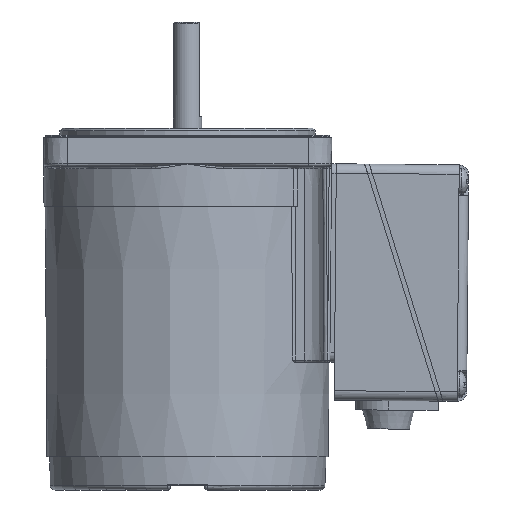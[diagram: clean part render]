
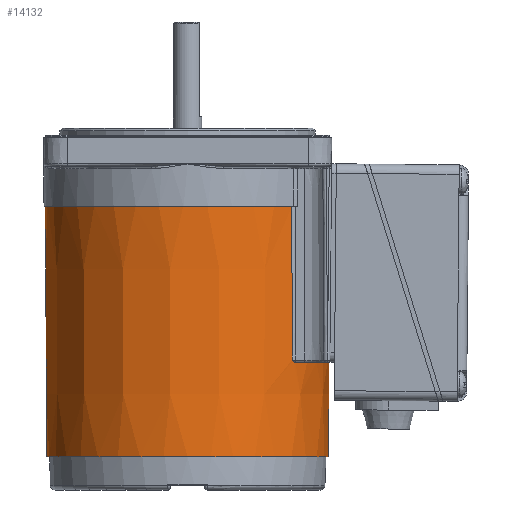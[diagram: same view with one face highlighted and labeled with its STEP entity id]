
A CAD part, left-side view. The second image highlights one B-rep face of the part: STEP entity #14132.
In plain terms, the highlighted conical face has half-angle 0.318 degrees and reference radius 30.123 mm.
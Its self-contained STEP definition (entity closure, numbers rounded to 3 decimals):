
#26 = CARTESIAN_POINT ( 'NONE',  ( 3.81, -29.707, -47.5 ) ) ;
#276 = CARTESIAN_POINT ( 'NONE',  ( 0., 0., -14.5 ) ) ;
#316 = AXIS2_PLACEMENT_3D ( 'NONE', #276, #6892, #12479 ) ;
#362 = VERTEX_POINT ( 'NONE', #2003 ) ;
#465 = B_SPLINE_CURVE_WITH_KNOTS ( 'NONE', 3,
 ( #5491, #26, #964, #12960, #14102, #4279, #6500, #9795, #7646, #7577 ),
 .UNSPECIFIED., .F., .F.,
 ( 4, 2, 2, 2, 4 ),
 ( 0., 0.002, 0.005, 0.007, 0.009 ),
 .UNSPECIFIED. ) ;
#853 = B_SPLINE_CURVE_WITH_KNOTS ( 'NONE', 3,
 ( #5702, #8996, #11278, #5771, #4757, #6986, #14056, #13843, #9754, #5076 ),
 .UNSPECIFIED., .F., .F.,
 ( 4, 3, 3, 4 ),
 ( 0., 0.002, 0.01, 0.033 ),
 .UNSPECIFIED. ) ;
#964 = CARTESIAN_POINT ( 'NONE',  ( 3.05, -29.794, -47.461 ) ) ;
#1103 = CARTESIAN_POINT ( 'NONE',  ( 20.494, -22.077, -14.5 ) ) ;
#1349 = ORIENTED_EDGE ( 'NONE', *, *, #7002, .T. ) ;
#1555 = EDGE_LOOP ( 'NONE', ( #12562, #14049, #2099, #1349, #11857, #12964, #4025, #3555 ) ) ;
#2003 = CARTESIAN_POINT ( 'NONE',  ( 4.567, -29.59, -47.5 ) ) ;
#2099 = ORIENTED_EDGE ( 'NONE', *, *, #5420, .T. ) ;
#2292 = CARTESIAN_POINT ( 'NONE',  ( -20.494, -22.077, -14.5 ) ) ;
#2420 = CARTESIAN_POINT ( 'NONE',  ( -19.391, -22.812, -47.5 ) ) ;
#2437 = CARTESIAN_POINT ( 'NONE',  ( 0., 0., -14.5 ) ) ;
#2569 = CARTESIAN_POINT ( 'NONE',  ( -20.224, -22.088, -46.001 ) ) ;
#3286 = FACE_BOUND ( 'NONE', #5263, .T. ) ;
#3304 = ORIENTED_EDGE ( 'NONE', *, *, #4034, .F. ) ;
#3313 = B_SPLINE_CURVE_WITH_KNOTS ( 'NONE', 3,
 ( #7806, #11896, #14116, #8815, #4293, #12973 ),
 .UNSPECIFIED., .F., .F.,
 ( 4, 2, 4 ),
 ( 0., 0.001, 0.001 ),
 .UNSPECIFIED. ) ;
#3369 = CARTESIAN_POINT ( 'NONE',  ( -20.229, -22.088, -45.5 ) ) ;
#3404 = VERTEX_POINT ( 'NONE', #4650 ) ;
#3555 = ORIENTED_EDGE ( 'NONE', *, *, #12802, .T. ) ;
#3920 = CARTESIAN_POINT ( 'NONE',  ( 20.093, -22.2, -47.122 ) ) ;
#3935 = CARTESIAN_POINT ( 'NONE',  ( 0., 0., -67.5 ) ) ;
#4025 = ORIENTED_EDGE ( 'NONE', *, *, #10476, .T. ) ;
#4034 = EDGE_CURVE ( 'NONE', #10006, #10006, #12085, .T. ) ;
#4114 = DIRECTION ( 'NONE',  ( 0., 0., -1. ) ) ;
#4279 = CARTESIAN_POINT ( 'NONE',  ( -0.764, -29.941, -47.356 ) ) ;
#4293 = CARTESIAN_POINT ( 'NONE',  ( -20.093, -22.2, -47.122 ) ) ;
#4442 = CARTESIAN_POINT ( 'NONE',  ( -20.216, -22.088, -47.003 ) ) ;
#4525 = VERTEX_POINT ( 'NONE', #2420 ) ;
#4650 = CARTESIAN_POINT ( 'NONE',  ( -20.494, -22.077, -14.5 ) ) ;
#4757 = CARTESIAN_POINT ( 'NONE',  ( 20.454, -22.079, -19.166 ) ) ;
#4934 = DIRECTION ( 'NONE',  ( 0., 0., -1. ) ) ;
#5076 = CARTESIAN_POINT ( 'NONE',  ( 20.216, -22.088, -47.003 ) ) ;
#5149 = CARTESIAN_POINT ( 'NONE',  ( 19.699, -22.548, -47.429 ) ) ;
#5238 = DIRECTION ( 'NONE',  ( 0., 0., -1. ) ) ;
#5263 = EDGE_LOOP ( 'NONE', ( #3304 ) ) ;
#5372 = EDGE_CURVE ( 'NONE', #7565, #8091, #6228, .T. ) ;
#5420 = EDGE_CURVE ( 'NONE', #8091, #362, #6949, .T. ) ;
#5491 = CARTESIAN_POINT ( 'NONE',  ( 4.567, -29.59, -47.5 ) ) ;
#5702 = CARTESIAN_POINT ( 'NONE',  ( 20.494, -22.077, -14.5 ) ) ;
#5771 = CARTESIAN_POINT ( 'NONE',  ( 20.477, -22.078, -16.5 ) ) ;
#5912 = AXIS2_PLACEMENT_3D ( 'NONE', #3935, #5238, #13847 ) ;
#6014 = CARTESIAN_POINT ( 'NONE',  ( 19.549, -22.678, -47.5 ) ) ;
#6228 = B_SPLINE_CURVE_WITH_KNOTS ( 'NONE', 3,
 ( #13688, #3920, #7236, #5149, #6014, #11669 ),
 .UNSPECIFIED., .F., .F.,
 ( 4, 2, 4 ),
 ( 0., 0.001, 0.001 ),
 .UNSPECIFIED. ) ;
#6416 = CARTESIAN_POINT ( 'NONE',  ( 0., 0., -47.5 ) ) ;
#6500 = CARTESIAN_POINT ( 'NONE',  ( -1.529, -29.911, -47.389 ) ) ;
#6504 = VERTEX_POINT ( 'NONE', #6973 ) ;
#6600 = EDGE_CURVE ( 'NONE', #4525, #6504, #3313, .T. ) ;
#6678 = AXIS2_PLACEMENT_3D ( 'NONE', #2437, #6815, #7678 ) ;
#6790 = B_SPLINE_CURVE_WITH_KNOTS ( 'NONE', 3,
 ( #4442, #8903, #2569, #3369, #6819, #12116, #13266, #11181, #6885, #2292 ),
 .UNSPECIFIED., .F., .F.,
 ( 4, 3, 3, 4 ),
 ( 0., 0.002, 0.01, 0.033 ),
 .UNSPECIFIED. ) ;
#6815 = DIRECTION ( 'NONE',  ( 0., 0., 1. ) ) ;
#6819 = CARTESIAN_POINT ( 'NONE',  ( -20.251, -22.087, -42.834 ) ) ;
#6885 = CARTESIAN_POINT ( 'NONE',  ( -20.429, -22.08, -22.167 ) ) ;
#6892 = DIRECTION ( 'NONE',  ( 0., 0., -1. ) ) ;
#6907 = CONICAL_SURFACE ( 'NONE', #6678, 30.123, 0.006 ) ;
#6949 = CIRCLE ( 'NONE', #12440, 29.94 ) ;
#6973 = CARTESIAN_POINT ( 'NONE',  ( -20.216, -22.088, -47.003 ) ) ;
#6986 = CARTESIAN_POINT ( 'NONE',  ( 20.431, -22.08, -21.833 ) ) ;
#7002 = EDGE_CURVE ( 'NONE', #362, #8268, #465, .T. ) ;
#7230 = CARTESIAN_POINT ( 'NONE',  ( -4.567, -29.59, -47.5 ) ) ;
#7236 = CARTESIAN_POINT ( 'NONE',  ( 19.969, -22.311, -47.241 ) ) ;
#7565 = VERTEX_POINT ( 'NONE', #10690 ) ;
#7577 = CARTESIAN_POINT ( 'NONE',  ( -4.567, -29.59, -47.5 ) ) ;
#7646 = CARTESIAN_POINT ( 'NONE',  ( -3.809, -29.707, -47.5 ) ) ;
#7676 = CARTESIAN_POINT ( 'NONE',  ( 19.391, -22.812, -47.5 ) ) ;
#7678 = DIRECTION ( 'NONE',  ( 1., 0., 0. ) ) ;
#7806 = CARTESIAN_POINT ( 'NONE',  ( -19.391, -22.812, -47.5 ) ) ;
#8091 = VERTEX_POINT ( 'NONE', #7676 ) ;
#8268 = VERTEX_POINT ( 'NONE', #7230 ) ;
#8428 = DIRECTION ( 'NONE',  ( -1., 0., 0. ) ) ;
#8815 = CARTESIAN_POINT ( 'NONE',  ( -19.969, -22.311, -47.241 ) ) ;
#8903 = CARTESIAN_POINT ( 'NONE',  ( -20.22, -22.088, -46.502 ) ) ;
#8996 = CARTESIAN_POINT ( 'NONE',  ( 20.489, -22.078, -15.167 ) ) ;
#9754 = CARTESIAN_POINT ( 'NONE',  ( 20.28, -22.086, -39.502 ) ) ;
#9779 = VERTEX_POINT ( 'NONE', #1103 ) ;
#9795 = CARTESIAN_POINT ( 'NONE',  ( -3.051, -29.794, -47.461 ) ) ;
#9882 = FACE_OUTER_BOUND ( 'NONE', #1555, .T. ) ;
#10006 = VERTEX_POINT ( 'NONE', #13234 ) ;
#10376 = CARTESIAN_POINT ( 'NONE',  ( 0., 0., -47.5 ) ) ;
#10476 = EDGE_CURVE ( 'NONE', #6504, #3404, #6790, .T. ) ;
#10690 = CARTESIAN_POINT ( 'NONE',  ( 20.216, -22.088, -47.003 ) ) ;
#10939 = EDGE_CURVE ( 'NONE', #8268, #4525, #13503, .T. ) ;
#11181 = CARTESIAN_POINT ( 'NONE',  ( -20.363, -22.083, -29.834 ) ) ;
#11278 = CARTESIAN_POINT ( 'NONE',  ( 20.483, -22.078, -15.833 ) ) ;
#11459 = DIRECTION ( 'NONE',  ( -1., 0., 0. ) ) ;
#11661 = AXIS2_PLACEMENT_3D ( 'NONE', #6416, #4114, #8428 ) ;
#11669 = CARTESIAN_POINT ( 'NONE',  ( 19.391, -22.812, -47.5 ) ) ;
#11857 = ORIENTED_EDGE ( 'NONE', *, *, #10939, .T. ) ;
#11896 = CARTESIAN_POINT ( 'NONE',  ( -19.549, -22.678, -47.5 ) ) ;
#12085 = CIRCLE ( 'NONE', #5912, 29.829 ) ;
#12116 = CARTESIAN_POINT ( 'NONE',  ( -20.274, -22.086, -40.167 ) ) ;
#12440 = AXIS2_PLACEMENT_3D ( 'NONE', #10376, #4934, #11459 ) ;
#12479 = DIRECTION ( 'NONE',  ( -1., 0., 0. ) ) ;
#12562 = ORIENTED_EDGE ( 'NONE', *, *, #13928, .T. ) ;
#12802 = EDGE_CURVE ( 'NONE', #3404, #9779, #14082, .T. ) ;
#12960 = CARTESIAN_POINT ( 'NONE',  ( 1.529, -29.911, -47.389 ) ) ;
#12964 = ORIENTED_EDGE ( 'NONE', *, *, #6600, .T. ) ;
#12973 = CARTESIAN_POINT ( 'NONE',  ( -20.216, -22.088, -47.003 ) ) ;
#13234 = CARTESIAN_POINT ( 'NONE',  ( -29.829, 0., -67.5 ) ) ;
#13266 = CARTESIAN_POINT ( 'NONE',  ( -20.297, -22.085, -37.5 ) ) ;
#13503 = CIRCLE ( 'NONE', #11661, 29.94 ) ;
#13688 = CARTESIAN_POINT ( 'NONE',  ( 20.216, -22.088, -47.003 ) ) ;
#13843 = CARTESIAN_POINT ( 'NONE',  ( 20.344, -22.084, -32.001 ) ) ;
#13847 = DIRECTION ( 'NONE',  ( -1., 0., 0. ) ) ;
#13928 = EDGE_CURVE ( 'NONE', #9779, #7565, #853, .T. ) ;
#14049 = ORIENTED_EDGE ( 'NONE', *, *, #5372, .T. ) ;
#14056 = CARTESIAN_POINT ( 'NONE',  ( 20.409, -22.081, -24.5 ) ) ;
#14082 = CIRCLE ( 'NONE', #316, 30.123 ) ;
#14102 = CARTESIAN_POINT ( 'NONE',  ( 0.766, -29.941, -47.356 ) ) ;
#14116 = CARTESIAN_POINT ( 'NONE',  ( -19.699, -22.548, -47.429 ) ) ;
#14132 = ADVANCED_FACE ( 'NONE', ( #3286, #9882 ), #6907, .T. ) ;
